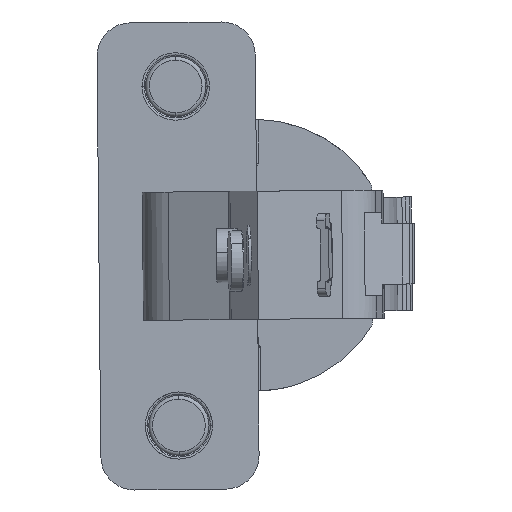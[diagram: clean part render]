
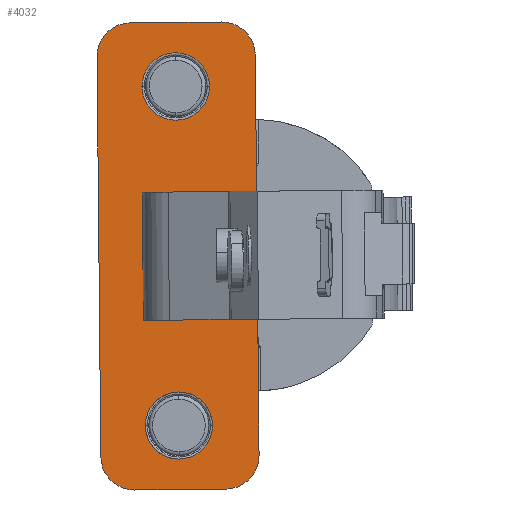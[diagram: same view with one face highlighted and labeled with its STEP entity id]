
A CAD part, left-side view. The second image highlights one B-rep face of the part: STEP entity #4032.
In plain terms, the highlighted planar face has unit normal (-1, 0, 0).
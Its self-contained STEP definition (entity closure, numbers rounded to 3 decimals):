
#28 = DIRECTION ( 'NONE',  ( -1., 0., 0. ) ) ;
#167 = AXIS2_PLACEMENT_3D ( 'NONE', #455, #3174, #502 ) ;
#181 = CARTESIAN_POINT ( 'NONE',  ( -3., 25.49, -44.673 ) ) ;
#263 = EDGE_CURVE ( 'NONE', #4958, #6810, #7942, .T. ) ;
#403 = VERTEX_POINT ( 'NONE', #2195 ) ;
#455 = CARTESIAN_POINT ( 'NONE',  ( -3., 29.954, -44.715 ) ) ;
#499 = AXIS2_PLACEMENT_3D ( 'NONE', #7356, #8714, #6804 ) ;
#502 = DIRECTION ( 'NONE',  ( 0., 0.009, 1. ) ) ;
#534 = ORIENTED_EDGE ( 'NONE', *, *, #6393, .T. ) ;
#584 = EDGE_CURVE ( 'NONE', #6158, #2333, #2566, .T. ) ;
#658 = EDGE_CURVE ( 'NONE', #6211, #7684, #3279, .T. ) ;
#686 = VERTEX_POINT ( 'NONE', #181 ) ;
#725 = CARTESIAN_POINT ( 'NONE',  ( -3., 30.493, 12.818 ) ) ;
#733 = ORIENTED_EDGE ( 'NONE', *, *, #3465, .T. ) ;
#886 = CARTESIAN_POINT ( 'NONE',  ( -3., 36.549, 4.261 ) ) ;
#899 = DIRECTION ( 'NONE',  ( 0., 0.009, 1. ) ) ;
#988 = EDGE_CURVE ( 'NONE', #6810, #7145, #1625, .T. ) ;
#1012 = DIRECTION ( 'NONE',  ( -1., 0., 0. ) ) ;
#1078 = LINE ( 'NONE', #3789, #6524 ) ;
#1126 = FACE_OUTER_BOUND ( 'NONE', #7388, .T. ) ;
#1134 = LINE ( 'NONE', #1796, #2602 ) ;
#1322 = ORIENTED_EDGE ( 'NONE', *, *, #7405, .T. ) ;
#1397 = EDGE_LOOP ( 'NONE', ( #534, #7661 ) ) ;
#1415 = DIRECTION ( 'NONE',  ( 0., -1., 0. ) ) ;
#1453 = CIRCLE ( 'NONE', #5158, 4.454 ) ;
#1571 = LINE ( 'NONE', #2241, #7209 ) ;
#1625 = CIRCLE ( 'NONE', #3757, 4.464 ) ;
#1796 = CARTESIAN_POINT ( 'NONE',  ( -3., 25.659, -26.638 ) ) ;
#1810 = CARTESIAN_POINT ( 'NONE',  ( -3., 42.565, 12.705 ) ) ;
#1840 = CARTESIAN_POINT ( 'NONE',  ( -3., 25.818, -9.639 ) ) ;
#1962 = CARTESIAN_POINT ( 'NONE',  ( -3., 31.674, -40.737 ) ) ;
#2031 = EDGE_CURVE ( 'NONE', #686, #5021, #1078, .T. ) ;
#2109 = ORIENTED_EDGE ( 'NONE', *, *, #4143, .T. ) ;
#2183 = CARTESIAN_POINT ( 'NONE',  ( -3., 29.912, -49.179 ) ) ;
#2195 = CARTESIAN_POINT ( 'NONE',  ( -3., 40.581, -40.737 ) ) ;
#2237 = CARTESIAN_POINT ( 'NONE',  ( -3., 40.082, -104.989 ) ) ;
#2241 = CARTESIAN_POINT ( 'NONE',  ( -3., 46.987, 8.2 ) ) ;
#2333 = VERTEX_POINT ( 'NONE', #4305 ) ;
#2407 = ORIENTED_EDGE ( 'NONE', *, *, #988, .T. ) ;
#2566 = LINE ( 'NONE', #1840, #5197 ) ;
#2601 = DIRECTION ( 'NONE',  ( 0., -1., 0.009 ) ) ;
#2602 = VECTOR ( 'NONE', #6579, 1000. ) ;
#2747 = DIRECTION ( 'NONE',  ( 0., -1., 0.009 ) ) ;
#2837 = ORIENTED_EDGE ( 'NONE', *, *, #2031, .T. ) ;
#2942 = ORIENTED_EDGE ( 'NONE', *, *, #584, .F. ) ;
#2952 = DIRECTION ( 'NONE',  ( 0., -0.009, -1. ) ) ;
#2997 = DIRECTION ( 'NONE',  ( 0., 0.009, 1. ) ) ;
#3061 = AXIS2_PLACEMENT_3D ( 'NONE', #5306, #3273, #7202 ) ;
#3174 = DIRECTION ( 'NONE',  ( -1., 0., 0. ) ) ;
#3256 = CARTESIAN_POINT ( 'NONE',  ( -3., 42.565, 12.705 ) ) ;
#3268 = DIRECTION ( 'NONE',  ( 0., 0.009, 1. ) ) ;
#3273 = DIRECTION ( 'NONE',  ( -1., 0., 0. ) ) ;
#3279 = LINE ( 'NONE', #8731, #6918 ) ;
#3308 = CARTESIAN_POINT ( 'NONE',  ( -3., 26.004, 10.197 ) ) ;
#3465 = EDGE_CURVE ( 'NONE', #7145, #8333, #1571, .T. ) ;
#3560 = ORIENTED_EDGE ( 'NONE', *, *, #5069, .T. ) ;
#3612 = CARTESIAN_POINT ( 'NONE',  ( -3., 41.984, -49.292 ) ) ;
#3657 = CARTESIAN_POINT ( 'NONE',  ( -3., 25.818, -9.639 ) ) ;
#3661 = ORIENTED_EDGE ( 'NONE', *, *, #3778, .T. ) ;
#3717 = DIRECTION ( 'NONE',  ( 0., -1., 0.009 ) ) ;
#3757 = AXIS2_PLACEMENT_3D ( 'NONE', #8678, #4636, #5988 ) ;
#3778 = EDGE_CURVE ( 'NONE', #8333, #6211, #5920, .T. ) ;
#3789 = CARTESIAN_POINT ( 'NONE',  ( -3., 25.49, -44.673 ) ) ;
#3823 = CIRCLE ( 'NONE', #6691, 4.478 ) ;
#3838 = PLANE ( 'NONE',  #167 ) ;
#3953 = CARTESIAN_POINT ( 'NONE',  ( -3., 25.988, 8.397 ) ) ;
#3966 = EDGE_LOOP ( 'NONE', ( #7617, #5825 ) ) ;
#4032 = ADVANCED_FACE ( 'NONE', ( #1126, #6614, #5807 ), #3838, .T. ) ;
#4049 = DIRECTION ( 'NONE',  ( 0., -1., 0.009 ) ) ;
#4073 = DIRECTION ( 'NONE',  ( -1., 0., 0. ) ) ;
#4143 = EDGE_CURVE ( 'NONE', #6158, #7193, #6659, .T. ) ;
#4305 = CARTESIAN_POINT ( 'NONE',  ( -3., 40.975, -9.781 ) ) ;
#4376 = EDGE_CURVE ( 'NONE', #8795, #403, #1453, .T. ) ;
#4508 = VECTOR ( 'NONE', #7303, 1000. ) ;
#4636 = DIRECTION ( 'NONE',  ( -1., 0., 0. ) ) ;
#4650 = CARTESIAN_POINT ( 'NONE',  ( -3., 25.659, -26.638 ) ) ;
#4717 = CARTESIAN_POINT ( 'NONE',  ( -3., 32.071, 4.303 ) ) ;
#4758 = CIRCLE ( 'NONE', #3061, 4.464 ) ;
#4807 = EDGE_CURVE ( 'NONE', #6045, #5021, #1134, .T. ) ;
#4816 = CIRCLE ( 'NONE', #7698, 4.464 ) ;
#4928 = DIRECTION ( 'NONE',  ( 0., -1., 0.009 ) ) ;
#4958 = VERTEX_POINT ( 'NONE', #725 ) ;
#5021 = VERTEX_POINT ( 'NONE', #4650 ) ;
#5069 = EDGE_CURVE ( 'NONE', #6045, #2333, #6253, .T. ) ;
#5158 = AXIS2_PLACEMENT_3D ( 'NONE', #5632, #4073, #1415 ) ;
#5197 = VECTOR ( 'NONE', #6001, 1000. ) ;
#5278 = EDGE_CURVE ( 'NONE', #7864, #6472, #6255, .T. ) ;
#5306 = CARTESIAN_POINT ( 'NONE',  ( -3., 29.953, -44.715 ) ) ;
#5324 = ORIENTED_EDGE ( 'NONE', *, *, #8691, .T. ) ;
#5350 = DIRECTION ( 'NONE',  ( 1., 0., 0. ) ) ;
#5437 = CARTESIAN_POINT ( 'NONE',  ( -3., 40.815, -26.78 ) ) ;
#5468 = CARTESIAN_POINT ( 'NONE',  ( -3., 36.549, 4.261 ) ) ;
#5627 = ORIENTED_EDGE ( 'NONE', *, *, #263, .T. ) ;
#5632 = CARTESIAN_POINT ( 'NONE',  ( -3., 36.127, -40.737 ) ) ;
#5658 = ORIENTED_EDGE ( 'NONE', *, *, #658, .T. ) ;
#5775 = AXIS2_PLACEMENT_3D ( 'NONE', #7847, #1012, #3717 ) ;
#5807 = FACE_BOUND ( 'NONE', #1397, .T. ) ;
#5825 = ORIENTED_EDGE ( 'NONE', *, *, #7186, .F. ) ;
#5920 = CIRCLE ( 'NONE', #5775, 4.464 ) ;
#5988 = DIRECTION ( 'NONE',  ( 0., -1., 0.009 ) ) ;
#6001 = DIRECTION ( 'NONE',  ( 0., 1., -0.009 ) ) ;
#6045 = VERTEX_POINT ( 'NONE', #5437 ) ;
#6158 = VERTEX_POINT ( 'NONE', #3657 ) ;
#6211 = VERTEX_POINT ( 'NONE', #3612 ) ;
#6253 = LINE ( 'NONE', #2237, #6305 ) ;
#6255 = CIRCLE ( 'NONE', #7539, 4.478 ) ;
#6305 = VECTOR ( 'NONE', #899, 1000. ) ;
#6393 = EDGE_CURVE ( 'NONE', #6472, #7864, #3823, .T. ) ;
#6472 = VERTEX_POINT ( 'NONE', #4717 ) ;
#6524 = VECTOR ( 'NONE', #2997, 1000. ) ;
#6579 = DIRECTION ( 'NONE',  ( 0., -1., 0.009 ) ) ;
#6614 = FACE_BOUND ( 'NONE', #3966, .T. ) ;
#6659 = LINE ( 'NONE', #3308, #7437 ) ;
#6691 = AXIS2_PLACEMENT_3D ( 'NONE', #5468, #5350, #4049 ) ;
#6804 = DIRECTION ( 'NONE',  ( 0., -1., 0. ) ) ;
#6810 = VERTEX_POINT ( 'NONE', #3256 ) ;
#6918 = VECTOR ( 'NONE', #2601, 1000. ) ;
#7054 = ORIENTED_EDGE ( 'NONE', *, *, #4807, .F. ) ;
#7145 = VERTEX_POINT ( 'NONE', #8620 ) ;
#7153 = CARTESIAN_POINT ( 'NONE',  ( -3., 41.027, 4.219 ) ) ;
#7186 = EDGE_CURVE ( 'NONE', #403, #8795, #8774, .T. ) ;
#7193 = VERTEX_POINT ( 'NONE', #3953 ) ;
#7202 = DIRECTION ( 'NONE',  ( 0., -1., 0.009 ) ) ;
#7209 = VECTOR ( 'NONE', #2952, 1000. ) ;
#7303 = DIRECTION ( 'NONE',  ( 0., 1., -0.009 ) ) ;
#7356 = CARTESIAN_POINT ( 'NONE',  ( -3., 36.127, -40.737 ) ) ;
#7388 = EDGE_LOOP ( 'NONE', ( #2837, #7054, #3560, #2942, #2109, #5324, #5627, #2407, #733, #3661, #5658, #1322 ) ) ;
#7405 = EDGE_CURVE ( 'NONE', #7684, #686, #4758, .T. ) ;
#7437 = VECTOR ( 'NONE', #3268, 1000. ) ;
#7441 = CARTESIAN_POINT ( 'NONE',  ( -3., 30.451, 8.355 ) ) ;
#7539 = AXIS2_PLACEMENT_3D ( 'NONE', #886, #7727, #4928 ) ;
#7617 = ORIENTED_EDGE ( 'NONE', *, *, #4376, .F. ) ;
#7661 = ORIENTED_EDGE ( 'NONE', *, *, #5278, .T. ) ;
#7684 = VERTEX_POINT ( 'NONE', #2183 ) ;
#7698 = AXIS2_PLACEMENT_3D ( 'NONE', #7441, #28, #2747 ) ;
#7727 = DIRECTION ( 'NONE',  ( 1., 0., 0. ) ) ;
#7847 = CARTESIAN_POINT ( 'NONE',  ( -3., 42.026, -44.829 ) ) ;
#7864 = VERTEX_POINT ( 'NONE', #7153 ) ;
#7942 = LINE ( 'NONE', #1810, #4508 ) ;
#8333 = VERTEX_POINT ( 'NONE', #8513 ) ;
#8513 = CARTESIAN_POINT ( 'NONE',  ( -3., 46.489, -44.87 ) ) ;
#8620 = CARTESIAN_POINT ( 'NONE',  ( -3., 46.987, 8.2 ) ) ;
#8678 = CARTESIAN_POINT ( 'NONE',  ( -3., 42.523, 8.242 ) ) ;
#8691 = EDGE_CURVE ( 'NONE', #7193, #4958, #4816, .T. ) ;
#8714 = DIRECTION ( 'NONE',  ( -1., 0., 0. ) ) ;
#8731 = CARTESIAN_POINT ( 'NONE',  ( -3., 29.912, -49.179 ) ) ;
#8774 = CIRCLE ( 'NONE', #499, 4.454 ) ;
#8795 = VERTEX_POINT ( 'NONE', #1962 ) ;
